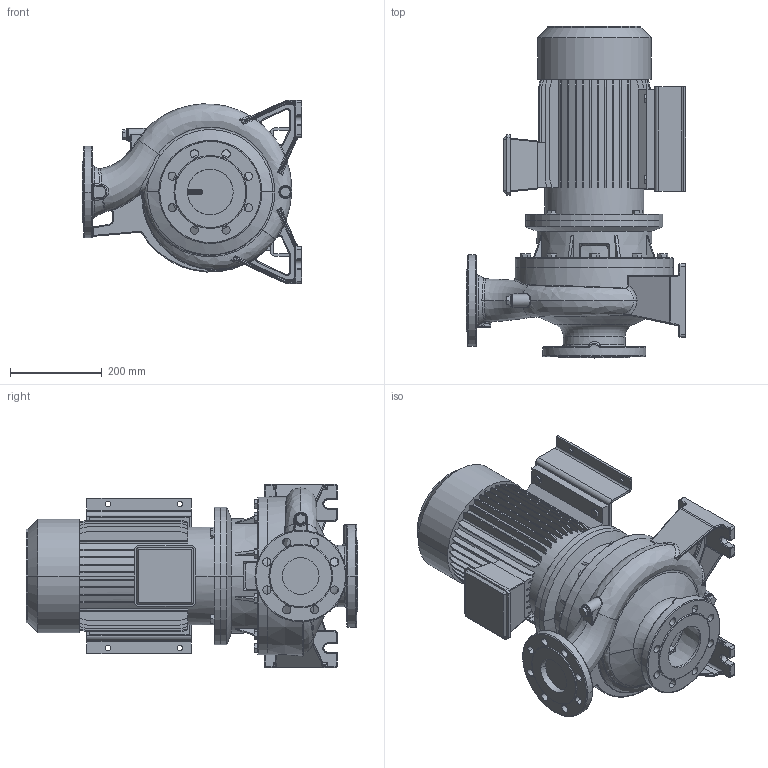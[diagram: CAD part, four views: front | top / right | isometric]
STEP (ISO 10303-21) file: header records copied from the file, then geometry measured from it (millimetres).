
FILE_DESCRIPTION((''),'2;1');
FILE_NAME('3S4_80-250_7_5_IE3_ASM','2016-09-24T',('rosa'),('"Ebara Pumps Europe +39.444.706811"'),'PRO/ENGINEER BY PARAMETRIC TECHNOLOGY CORPORATION, 2012130','PRO/ENGINEER BY PARAMETRIC TECHNOLOGY CORPORATION, 2012130','');
FILE_SCHEMA(('AUTOMOTIVE_DESIGN { 1 0 10303 214 1 1 1 1 }'));
Products named in the file (7): MOTORE_132_7_5_KW_4POLI_B35; SOSTEGNO_72191_132M; M10X22; ANELLO_10074; SUPPORTO_3S_266_100_112; CORPO_POMPA_80-250; 3S4_80-250_7_5_IE3_ASM
Assembly tree (9 placements, depth 2):
  3S4_80-250_7_5_IE3_ASM
    MOTORE_132_7_5_KW_4POLI_B35
    SOSTEGNO_72191_132M
    M10X22  x4
    ANELLO_10074
    SUPPORTO_3S_266_100_112
    CORPO_POMPA_80-250
Bounding box: 480 x 725 x 400 mm (x, y, z)
Volume: 37231207.9 mm3; surface area: 2189415.4 mm2
Topology: 9 solids, 9 shells, 1369 faces, 3367 edges, 2092 vertices
Faces by surface type: plane 646, cylinder 309, bspline 221, torus 110, cone 61, sphere 22
Entity records: 60185 total; most frequent: CARTESIAN_POINT 19308, ORIENTED_EDGE 6458, DIRECTION 5785, PRESENTATION_STYLE_ASSIGNMENT 3235, STYLED_ITEM 3235, CURVE_STYLE 3229, EDGE_CURVE 3229, AXIS2_PLACEMENT_3D 2071
